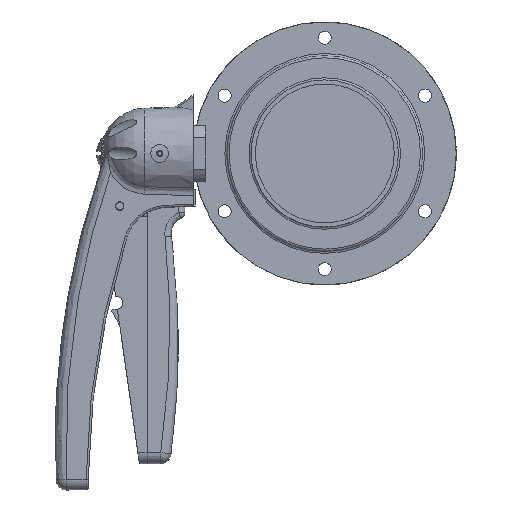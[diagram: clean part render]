
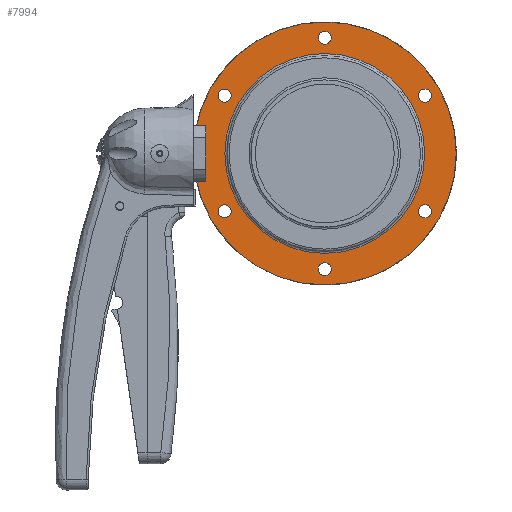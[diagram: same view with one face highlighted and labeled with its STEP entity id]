
A CAD part, left-side view. The second image highlights one B-rep face of the part: STEP entity #7994.
In plain terms, the highlighted planar face has unit normal (-1, 0, 0) as drawn and (1, 0, 0) by its records, which use the part's own axes.
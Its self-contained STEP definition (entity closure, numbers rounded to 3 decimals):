
#1996=FACE_BOUND('',#2888,.T.);
#1997=FACE_BOUND('',#2889,.T.);
#1998=FACE_BOUND('',#2890,.T.);
#1999=FACE_BOUND('',#2891,.T.);
#2000=FACE_BOUND('',#2892,.T.);
#2001=FACE_BOUND('',#2893,.T.);
#2002=FACE_BOUND('',#2894,.T.);
#2424=FACE_OUTER_BOUND('',#2887,.T.);
#2887=EDGE_LOOP('',(#7323,#7324));
#2888=EDGE_LOOP('',(#7325));
#2889=EDGE_LOOP('',(#7326));
#2890=EDGE_LOOP('',(#7327));
#2891=EDGE_LOOP('',(#7328));
#2892=EDGE_LOOP('',(#7329));
#2893=EDGE_LOOP('',(#7330));
#2894=EDGE_LOOP('',(#7331,#7332));
#3186=CIRCLE('',#8737,3.1);
#3187=CIRCLE('',#8739,3.1);
#3188=CIRCLE('',#8741,3.1);
#3189=CIRCLE('',#8743,3.1);
#3190=CIRCLE('',#8745,3.1);
#3191=CIRCLE('',#8747,3.1);
#3193=CIRCLE('',#8752,62.5);
#3194=CIRCLE('',#8753,62.5);
#3195=CIRCLE('',#8755,47.5);
#3196=CIRCLE('',#8756,47.5);
#3926=VERTEX_POINT('',#22727);
#3927=VERTEX_POINT('',#22731);
#3928=VERTEX_POINT('',#22735);
#3929=VERTEX_POINT('',#22739);
#3930=VERTEX_POINT('',#22743);
#3931=VERTEX_POINT('',#22747);
#3933=VERTEX_POINT('',#22775);
#3934=VERTEX_POINT('',#22776);
#3935=VERTEX_POINT('',#22781);
#3936=VERTEX_POINT('',#22782);
#5055=EDGE_CURVE('',#3926,#3926,#3186,.T.);
#5057=EDGE_CURVE('',#3927,#3927,#3187,.T.);
#5059=EDGE_CURVE('',#3928,#3928,#3188,.T.);
#5061=EDGE_CURVE('',#3929,#3929,#3189,.T.);
#5063=EDGE_CURVE('',#3930,#3930,#3190,.T.);
#5065=EDGE_CURVE('',#3931,#3931,#3191,.T.);
#5069=EDGE_CURVE('',#3933,#3934,#3193,.T.);
#5070=EDGE_CURVE('',#3934,#3933,#3194,.T.);
#5072=EDGE_CURVE('',#3935,#3936,#3195,.T.);
#5073=EDGE_CURVE('',#3936,#3935,#3196,.T.);
#7323=ORIENTED_EDGE('',*,*,#5069,.T.);
#7324=ORIENTED_EDGE('',*,*,#5070,.T.);
#7325=ORIENTED_EDGE('',*,*,#5055,.T.);
#7326=ORIENTED_EDGE('',*,*,#5057,.T.);
#7327=ORIENTED_EDGE('',*,*,#5059,.T.);
#7328=ORIENTED_EDGE('',*,*,#5061,.T.);
#7329=ORIENTED_EDGE('',*,*,#5063,.T.);
#7330=ORIENTED_EDGE('',*,*,#5065,.T.);
#7331=ORIENTED_EDGE('',*,*,#5072,.F.);
#7332=ORIENTED_EDGE('',*,*,#5073,.F.);
#7572=PLANE('',#8754);
#7994=ADVANCED_FACE('',(#2424,#1996,#1997,#1998,#1999,#2000,#2001,#2002),
#7572,.T.);
#8737=AXIS2_PLACEMENT_3D('',#22729,#10622,#10623);
#8739=AXIS2_PLACEMENT_3D('',#22733,#10627,#10628);
#8741=AXIS2_PLACEMENT_3D('',#22737,#10632,#10633);
#8743=AXIS2_PLACEMENT_3D('',#22741,#10637,#10638);
#8745=AXIS2_PLACEMENT_3D('',#22745,#10642,#10643);
#8747=AXIS2_PLACEMENT_3D('',#22749,#10647,#10648);
#8752=AXIS2_PLACEMENT_3D('',#22777,#10657,#10658);
#8753=AXIS2_PLACEMENT_3D('',#22778,#10659,#10660);
#8754=AXIS2_PLACEMENT_3D('',#22780,#10662,#10663);
#8755=AXIS2_PLACEMENT_3D('',#22783,#10664,#10665);
#8756=AXIS2_PLACEMENT_3D('',#22784,#10666,#10667);
#10622=DIRECTION('center_axis',(-1.,0.,0.));
#10623=DIRECTION('ref_axis',(0.,0.,1.));
#10627=DIRECTION('center_axis',(-1.,0.,0.));
#10628=DIRECTION('ref_axis',(0.,0.,1.));
#10632=DIRECTION('center_axis',(-1.,0.,0.));
#10633=DIRECTION('ref_axis',(0.,0.,1.));
#10637=DIRECTION('center_axis',(-1.,0.,0.));
#10638=DIRECTION('ref_axis',(0.,0.,1.));
#10642=DIRECTION('center_axis',(-1.,0.,0.));
#10643=DIRECTION('ref_axis',(0.,0.,1.));
#10647=DIRECTION('center_axis',(-1.,0.,0.));
#10648=DIRECTION('ref_axis',(0.,0.,1.));
#10657=DIRECTION('center_axis',(1.,0.,0.));
#10658=DIRECTION('ref_axis',(0.,0.,-1.));
#10659=DIRECTION('center_axis',(1.,0.,0.));
#10660=DIRECTION('ref_axis',(0.,0.,-1.));
#10662=DIRECTION('center_axis',(1.,0.,0.));
#10663=DIRECTION('ref_axis',(0.,0.,-1.));
#10664=DIRECTION('center_axis',(1.,0.,0.));
#10665=DIRECTION('ref_axis',(0.,0.,-1.));
#10666=DIRECTION('center_axis',(1.,0.,0.));
#10667=DIRECTION('ref_axis',(0.,0.,-1.));
#22727=CARTESIAN_POINT('',(10.,-47.631,24.4));
#22729=CARTESIAN_POINT('Origin',(10.,-47.631,27.5));
#22731=CARTESIAN_POINT('',(10.,0.,-58.1));
#22733=CARTESIAN_POINT('Origin',(10.,0.,-55.));
#22735=CARTESIAN_POINT('',(10.,0.,51.9));
#22737=CARTESIAN_POINT('Origin',(10.,0.,55.));
#22739=CARTESIAN_POINT('',(10.,47.631,-30.6));
#22741=CARTESIAN_POINT('Origin',(10.,47.631,-27.5));
#22743=CARTESIAN_POINT('',(10.,-47.631,-30.6));
#22745=CARTESIAN_POINT('Origin',(10.,-47.631,-27.5));
#22747=CARTESIAN_POINT('',(10.,47.631,24.4));
#22749=CARTESIAN_POINT('Origin',(10.,47.631,27.5));
#22775=CARTESIAN_POINT('',(10.,62.5,0.));
#22776=CARTESIAN_POINT('',(10.,-62.5,0.));
#22777=CARTESIAN_POINT('Origin',(10.,0.,0.));
#22778=CARTESIAN_POINT('Origin',(10.,0.,0.));
#22780=CARTESIAN_POINT('Origin',(10.,47.5,0.));
#22781=CARTESIAN_POINT('',(10.,47.5,0.));
#22782=CARTESIAN_POINT('',(10.,0.,47.5));
#22783=CARTESIAN_POINT('Origin',(10.,0.,0.));
#22784=CARTESIAN_POINT('Origin',(10.,0.,0.));
